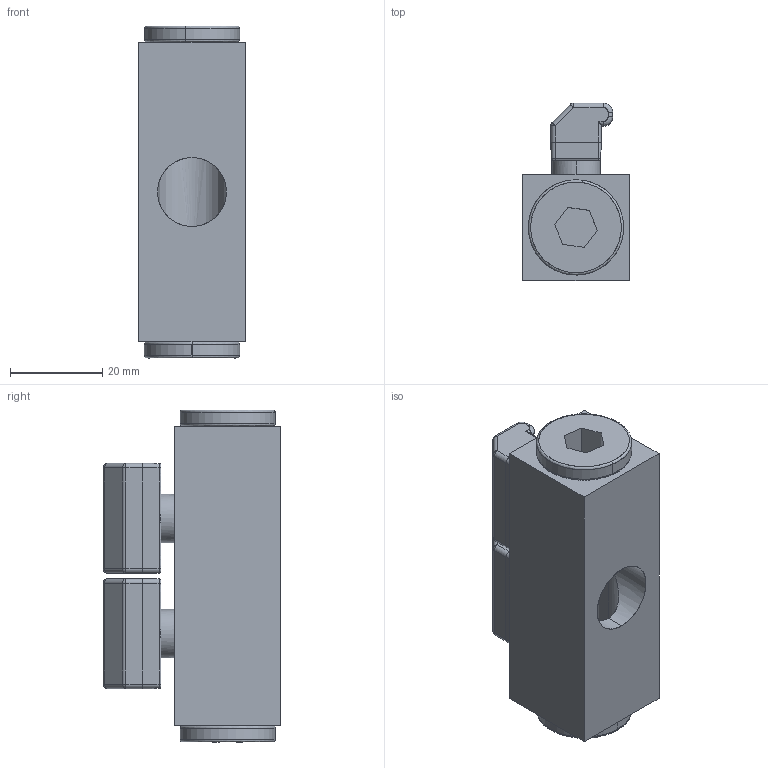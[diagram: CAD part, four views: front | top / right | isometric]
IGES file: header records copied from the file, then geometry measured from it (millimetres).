
Start section: SolidWorks IGES file using analytic representation for surfaces
Global section: file name: G:\Silvent\Ritningar\Övrigt\IGES\Silvent 362.IGS; native system: SolidWorks 2006 by SolidWorks Corporation; preprocessor: SolidWorks 2006 by SolidWorks Corporation; author: SilvRaTi; date: 061220.085344; units: millimetre
Bounding box: 23 x 38.5 x 72 mm (x, y, z)
Surface area: 16598.9 mm2 (no closed solid volume)
Topology: 0 solids, 0 shells, 502 faces, 4145 edges, 4141 vertices
Faces by surface type: bspline 326, revolution 176
